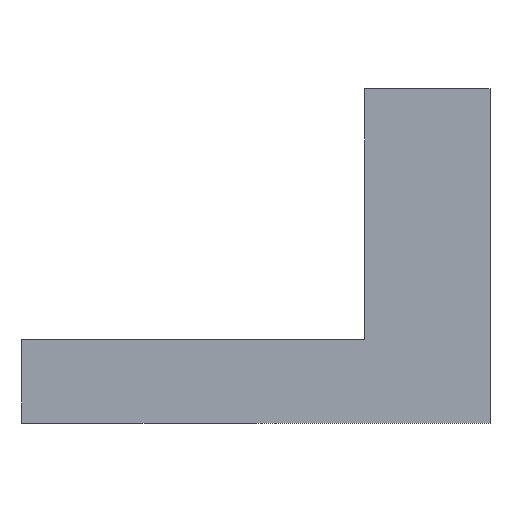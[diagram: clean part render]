
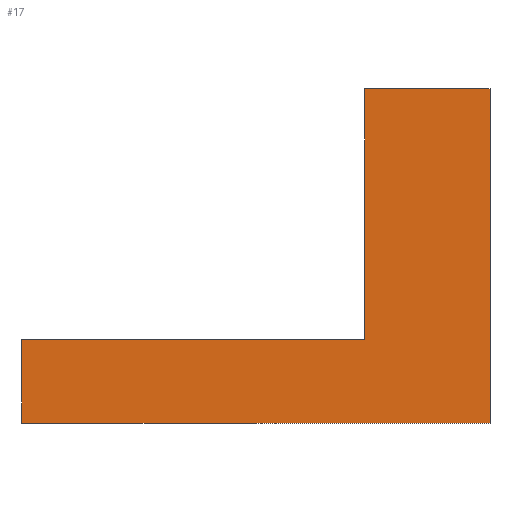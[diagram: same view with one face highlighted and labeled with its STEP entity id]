
A CAD part, front view. The second image highlights one B-rep face of the part: STEP entity #17.
In plain terms, the highlighted planar face has unit normal (0, -1, 0).
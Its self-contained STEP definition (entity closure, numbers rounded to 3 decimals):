
#17 = ADVANCED_FACE('',(#18),#32,.F.);
#18 = FACE_BOUND('',#19,.F.);
#19 = EDGE_LOOP('',(#20,#55,#83,#111,#139,#167));
#20 = ORIENTED_EDGE('',*,*,#21,.F.);
#21 = EDGE_CURVE('',#22,#24,#26,.T.);
#22 = VERTEX_POINT('',#23);
#23 = CARTESIAN_POINT('',(32.5,1.29,0.));
#24 = VERTEX_POINT('',#25);
#25 = CARTESIAN_POINT('',(32.5,1.29,8.));
#26 = SURFACE_CURVE('',#27,(#31,#43),.PCURVE_S1.);
#27 = LINE('',#28,#29);
#28 = CARTESIAN_POINT('',(32.5,1.29,0.));
#29 = VECTOR('',#30,1.);
#30 = DIRECTION('',(0.,0.,1.));
#31 = PCURVE('',#32,#37);
#32 = PLANE('',#33);
#33 = AXIS2_PLACEMENT_3D('',#34,#35,#36);
#34 = CARTESIAN_POINT('',(21.3,1.29,0.));
#35 = DIRECTION('',(0.,1.,0.));
#36 = DIRECTION('',(0.,0.,1.));
#37 = DEFINITIONAL_REPRESENTATION('',(#38),#42);
#38 = LINE('',#39,#40);
#39 = CARTESIAN_POINT('',(0.,11.2));
#40 = VECTOR('',#41,1.);
#41 = DIRECTION('',(1.,0.));
#42 = ( GEOMETRIC_REPRESENTATION_CONTEXT(2) 
PARAMETRIC_REPRESENTATION_CONTEXT() REPRESENTATION_CONTEXT('2D SPACE',''
  ) );
#43 = PCURVE('',#44,#49);
#44 = PLANE('',#45);
#45 = AXIS2_PLACEMENT_3D('',#46,#47,#48);
#46 = CARTESIAN_POINT('',(32.5,1.29,0.));
#47 = DIRECTION('',(1.,0.,0.));
#48 = DIRECTION('',(0.,0.,1.));
#49 = DEFINITIONAL_REPRESENTATION('',(#50),#54);
#50 = LINE('',#51,#52);
#51 = CARTESIAN_POINT('',(0.,0.));
#52 = VECTOR('',#53,1.);
#53 = DIRECTION('',(1.,0.));
#54 = ( GEOMETRIC_REPRESENTATION_CONTEXT(2) 
PARAMETRIC_REPRESENTATION_CONTEXT() REPRESENTATION_CONTEXT('2D SPACE',''
  ) );
#55 = ORIENTED_EDGE('',*,*,#56,.F.);
#56 = EDGE_CURVE('',#57,#22,#59,.T.);
#57 = VERTEX_POINT('',#58);
#58 = CARTESIAN_POINT('',(21.3,1.29,0.));
#59 = SURFACE_CURVE('',#60,(#64,#71),.PCURVE_S1.);
#60 = LINE('',#61,#62);
#61 = CARTESIAN_POINT('',(21.3,1.29,0.));
#62 = VECTOR('',#63,1.);
#63 = DIRECTION('',(1.,0.,0.));
#64 = PCURVE('',#32,#65);
#65 = DEFINITIONAL_REPRESENTATION('',(#66),#70);
#66 = LINE('',#67,#68);
#67 = CARTESIAN_POINT('',(0.,0.));
#68 = VECTOR('',#69,1.);
#69 = DIRECTION('',(0.,1.));
#70 = ( GEOMETRIC_REPRESENTATION_CONTEXT(2) 
PARAMETRIC_REPRESENTATION_CONTEXT() REPRESENTATION_CONTEXT('2D SPACE',''
  ) );
#71 = PCURVE('',#72,#77);
#72 = PLANE('',#73);
#73 = AXIS2_PLACEMENT_3D('',#74,#75,#76);
#74 = CARTESIAN_POINT('',(21.3,1.29,0.));
#75 = DIRECTION('',(0.,0.,1.));
#76 = DIRECTION('',(1.,0.,0.));
#77 = DEFINITIONAL_REPRESENTATION('',(#78),#82);
#78 = LINE('',#79,#80);
#79 = CARTESIAN_POINT('',(0.,0.));
#80 = VECTOR('',#81,1.);
#81 = DIRECTION('',(1.,0.));
#82 = ( GEOMETRIC_REPRESENTATION_CONTEXT(2) 
PARAMETRIC_REPRESENTATION_CONTEXT() REPRESENTATION_CONTEXT('2D SPACE',''
  ) );
#83 = ORIENTED_EDGE('',*,*,#84,.T.);
#84 = EDGE_CURVE('',#57,#85,#87,.T.);
#85 = VERTEX_POINT('',#86);
#86 = CARTESIAN_POINT('',(21.3,1.29,2.));
#87 = SURFACE_CURVE('',#88,(#92,#99),.PCURVE_S1.);
#88 = LINE('',#89,#90);
#89 = CARTESIAN_POINT('',(21.3,1.29,0.));
#90 = VECTOR('',#91,1.);
#91 = DIRECTION('',(0.,0.,1.));
#92 = PCURVE('',#32,#93);
#93 = DEFINITIONAL_REPRESENTATION('',(#94),#98);
#94 = LINE('',#95,#96);
#95 = CARTESIAN_POINT('',(0.,0.));
#96 = VECTOR('',#97,1.);
#97 = DIRECTION('',(1.,0.));
#98 = ( GEOMETRIC_REPRESENTATION_CONTEXT(2) 
PARAMETRIC_REPRESENTATION_CONTEXT() REPRESENTATION_CONTEXT('2D SPACE',''
  ) );
#99 = PCURVE('',#100,#105);
#100 = PLANE('',#101);
#101 = AXIS2_PLACEMENT_3D('',#102,#103,#104);
#102 = CARTESIAN_POINT('',(21.3,1.29,0.));
#103 = DIRECTION('',(1.,0.,0.));
#104 = DIRECTION('',(0.,0.,1.));
#105 = DEFINITIONAL_REPRESENTATION('',(#106),#110);
#106 = LINE('',#107,#108);
#107 = CARTESIAN_POINT('',(0.,0.));
#108 = VECTOR('',#109,1.);
#109 = DIRECTION('',(1.,0.));
#110 = ( GEOMETRIC_REPRESENTATION_CONTEXT(2) 
PARAMETRIC_REPRESENTATION_CONTEXT() REPRESENTATION_CONTEXT('2D SPACE',''
  ) );
#111 = ORIENTED_EDGE('',*,*,#112,.T.);
#112 = EDGE_CURVE('',#85,#113,#115,.T.);
#113 = VERTEX_POINT('',#114);
#114 = CARTESIAN_POINT('',(29.5,1.29,2.));
#115 = SURFACE_CURVE('',#116,(#120,#127),.PCURVE_S1.);
#116 = LINE('',#117,#118);
#117 = CARTESIAN_POINT('',(21.3,1.29,2.));
#118 = VECTOR('',#119,1.);
#119 = DIRECTION('',(1.,0.,0.));
#120 = PCURVE('',#32,#121);
#121 = DEFINITIONAL_REPRESENTATION('',(#122),#126);
#122 = LINE('',#123,#124);
#123 = CARTESIAN_POINT('',(2.,0.));
#124 = VECTOR('',#125,1.);
#125 = DIRECTION('',(0.,1.));
#126 = ( GEOMETRIC_REPRESENTATION_CONTEXT(2) 
PARAMETRIC_REPRESENTATION_CONTEXT() REPRESENTATION_CONTEXT('2D SPACE',''
  ) );
#127 = PCURVE('',#128,#133);
#128 = PLANE('',#129);
#129 = AXIS2_PLACEMENT_3D('',#130,#131,#132);
#130 = CARTESIAN_POINT('',(21.3,1.29,2.));
#131 = DIRECTION('',(0.,0.,1.));
#132 = DIRECTION('',(1.,0.,0.));
#133 = DEFINITIONAL_REPRESENTATION('',(#134),#138);
#134 = LINE('',#135,#136);
#135 = CARTESIAN_POINT('',(0.,0.));
#136 = VECTOR('',#137,1.);
#137 = DIRECTION('',(1.,0.));
#138 = ( GEOMETRIC_REPRESENTATION_CONTEXT(2) 
PARAMETRIC_REPRESENTATION_CONTEXT() REPRESENTATION_CONTEXT('2D SPACE',''
  ) );
#139 = ORIENTED_EDGE('',*,*,#140,.F.);
#140 = EDGE_CURVE('',#141,#113,#143,.T.);
#141 = VERTEX_POINT('',#142);
#142 = CARTESIAN_POINT('',(29.5,1.29,8.));
#143 = SURFACE_CURVE('',#144,(#148,#155),.PCURVE_S1.);
#144 = LINE('',#145,#146);
#145 = CARTESIAN_POINT('',(29.5,1.29,8.));
#146 = VECTOR('',#147,1.);
#147 = DIRECTION('',(0.,0.,-1.));
#148 = PCURVE('',#32,#149);
#149 = DEFINITIONAL_REPRESENTATION('',(#150),#154);
#150 = LINE('',#151,#152);
#151 = CARTESIAN_POINT('',(8.,8.2));
#152 = VECTOR('',#153,1.);
#153 = DIRECTION('',(-1.,0.));
#154 = ( GEOMETRIC_REPRESENTATION_CONTEXT(2) 
PARAMETRIC_REPRESENTATION_CONTEXT() REPRESENTATION_CONTEXT('2D SPACE',''
  ) );
#155 = PCURVE('',#156,#161);
#156 = PLANE('',#157);
#157 = AXIS2_PLACEMENT_3D('',#158,#159,#160);
#158 = CARTESIAN_POINT('',(29.5,1.29,0.));
#159 = DIRECTION('',(1.,0.,0.));
#160 = DIRECTION('',(0.,0.,1.));
#161 = DEFINITIONAL_REPRESENTATION('',(#162),#166);
#162 = LINE('',#163,#164);
#163 = CARTESIAN_POINT('',(8.,0.));
#164 = VECTOR('',#165,1.);
#165 = DIRECTION('',(-1.,0.));
#166 = ( GEOMETRIC_REPRESENTATION_CONTEXT(2) 
PARAMETRIC_REPRESENTATION_CONTEXT() REPRESENTATION_CONTEXT('2D SPACE',''
  ) );
#167 = ORIENTED_EDGE('',*,*,#168,.T.);
#168 = EDGE_CURVE('',#141,#24,#169,.T.);
#169 = SURFACE_CURVE('',#170,(#174,#181),.PCURVE_S1.);
#170 = LINE('',#171,#172);
#171 = CARTESIAN_POINT('',(29.5,1.29,8.));
#172 = VECTOR('',#173,1.);
#173 = DIRECTION('',(1.,0.,0.));
#174 = PCURVE('',#32,#175);
#175 = DEFINITIONAL_REPRESENTATION('',(#176),#180);
#176 = LINE('',#177,#178);
#177 = CARTESIAN_POINT('',(8.,8.2));
#178 = VECTOR('',#179,1.);
#179 = DIRECTION('',(0.,1.));
#180 = ( GEOMETRIC_REPRESENTATION_CONTEXT(2) 
PARAMETRIC_REPRESENTATION_CONTEXT() REPRESENTATION_CONTEXT('2D SPACE',''
  ) );
#181 = PCURVE('',#182,#187);
#182 = PLANE('',#183);
#183 = AXIS2_PLACEMENT_3D('',#184,#185,#186);
#184 = CARTESIAN_POINT('',(29.5,1.29,8.));
#185 = DIRECTION('',(0.,0.,1.));
#186 = DIRECTION('',(1.,0.,0.));
#187 = DEFINITIONAL_REPRESENTATION('',(#188),#192);
#188 = LINE('',#189,#190);
#189 = CARTESIAN_POINT('',(0.,0.));
#190 = VECTOR('',#191,1.);
#191 = DIRECTION('',(1.,0.));
#192 = ( GEOMETRIC_REPRESENTATION_CONTEXT(2) 
PARAMETRIC_REPRESENTATION_CONTEXT() REPRESENTATION_CONTEXT('2D SPACE',''
  ) );
